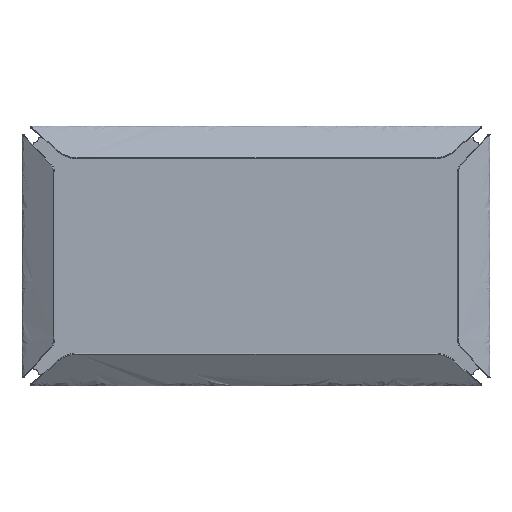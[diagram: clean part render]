
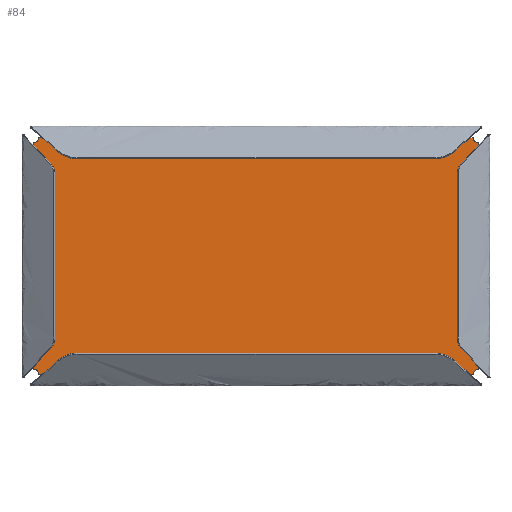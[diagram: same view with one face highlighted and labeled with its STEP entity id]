
A CAD part, top view. The second image highlights one B-rep face of the part: STEP entity #84.
In plain terms, the highlighted planar face has unit normal (0, 0, 1).
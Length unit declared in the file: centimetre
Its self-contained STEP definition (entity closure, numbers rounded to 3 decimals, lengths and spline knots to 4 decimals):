
#84=ADVANCED_FACE($,(#172),#1195,.T.);
#172=FACE_OUTER_BOUND($,#260,.T.);
#260=EDGE_LOOP($,(#360,#361));
#360=ORIENTED_EDGE($,*,*,#800,.T.);
#361=ORIENTED_EDGE($,*,*,#803,.T.);
#800=EDGE_CURVE($,#1021,#1023,#1379,.T.);
#803=EDGE_CURVE($,#1023,#1021,#1381,.T.);
#1021=VERTEX_POINT($,#1695);
#1023=VERTEX_POINT($,#1697);
#1195=PLANE($,#1519);
#1379=(
BOUNDED_CURVE()
B_SPLINE_CURVE(2,(#1571,#1572,#1573,#1574,#1575,#1576,#1577,#1578,#1579,
#1580,#1581,#1582,#1583,#1584,#1585,#1586,#1587),.UNSPECIFIED.,.F.,.F.)
B_SPLINE_CURVE_WITH_KNOTS((3,2,2,2,2,2,2,2,3),(231.1425,231.4367,
309.4567,309.7508,312.2177,312.5118,462.5318,
462.826,465.2928),.UNSPECIFIED.)
CURVE()
GEOMETRIC_REPRESENTATION_ITEM()
RATIONAL_B_SPLINE_CURVE((1.,0.742,1.,1.,1.,0.742,
1.,0.774,1.,0.742,1.,1.,1.,0.742,1.,
0.774,1.))
REPRESENTATION_ITEM($)
);
#1381=(
BOUNDED_CURVE()
B_SPLINE_CURVE(2,(#1607,#1608,#1609,#1610,#1611,#1612,#1613,#1614,#1615,
#1616,#1617,#1618,#1619,#1620,#1621,#1622,#1623),.UNSPECIFIED.,.F.,.F.)
B_SPLINE_CURVE_WITH_KNOTS((3,2,2,2,2,2,2,2,3),(465.2928,465.5869,
543.607,543.9011,546.3679,546.6621,696.6821,
696.9762,699.4431),.UNSPECIFIED.)
CURVE()
GEOMETRIC_REPRESENTATION_ITEM()
RATIONAL_B_SPLINE_CURVE((1.,0.742,1.,1.,1.,0.742,
1.,0.774,1.,0.742,1.,1.,1.,0.742,1.,
0.774,1.))
REPRESENTATION_ITEM($)
);
#1519=AXIS2_PLACEMENT_3D($,#1659,#1536,$);
#1536=DIRECTION($,(0.,0.,1.));
#1571=CARTESIAN_POINT($,(0.18,80.209,1.1));
#1572=CARTESIAN_POINT($,(0.,80.1909,1.1));
#1573=CARTESIAN_POINT($,(0.,80.01,1.1));
#1574=CARTESIAN_POINT($,(0.,41.,1.1));
#1575=CARTESIAN_POINT($,(0.,1.99,1.1));
#1576=CARTESIAN_POINT($,(0.,1.8091,1.1));
#1577=CARTESIAN_POINT($,(0.18,1.791,1.1));
#1578=CARTESIAN_POINT($,(1.6439,1.6439,1.1));
#1579=CARTESIAN_POINT($,(1.791,0.18,1.1));
#1580=CARTESIAN_POINT($,(1.8091,0.,1.1));
#1581=CARTESIAN_POINT($,(1.99,0.,1.1));
#1582=CARTESIAN_POINT($,(77.,0.,1.1));
#1583=CARTESIAN_POINT($,(152.01,0.,1.1));
#1584=CARTESIAN_POINT($,(152.1909,0.,1.1));
#1585=CARTESIAN_POINT($,(152.209,0.18,1.1));
#1586=CARTESIAN_POINT($,(152.3561,1.6439,1.1));
#1587=CARTESIAN_POINT($,(153.82,1.791,1.1));
#1607=CARTESIAN_POINT($,(153.82,1.791,1.1));
#1608=CARTESIAN_POINT($,(154.,1.8091,1.1));
#1609=CARTESIAN_POINT($,(154.,1.99,1.1));
#1610=CARTESIAN_POINT($,(154.,41.,1.1));
#1611=CARTESIAN_POINT($,(154.,80.01,1.1));
#1612=CARTESIAN_POINT($,(154.,80.1909,1.1));
#1613=CARTESIAN_POINT($,(153.82,80.209,1.1));
#1614=CARTESIAN_POINT($,(152.3561,80.3561,1.1));
#1615=CARTESIAN_POINT($,(152.209,81.82,1.1));
#1616=CARTESIAN_POINT($,(152.1909,82.,1.1));
#1617=CARTESIAN_POINT($,(152.01,82.,1.1));
#1618=CARTESIAN_POINT($,(77.,82.,1.1));
#1619=CARTESIAN_POINT($,(1.99,82.,1.1));
#1620=CARTESIAN_POINT($,(1.8091,82.,1.1));
#1621=CARTESIAN_POINT($,(1.791,81.82,1.1));
#1622=CARTESIAN_POINT($,(1.6439,80.3561,1.1));
#1623=CARTESIAN_POINT($,(0.18,80.209,1.1));
#1659=CARTESIAN_POINT($,(0.,0.,1.1));
#1695=CARTESIAN_POINT($,(0.18,80.209,1.1));
#1697=CARTESIAN_POINT($,(153.82,1.791,1.1));
